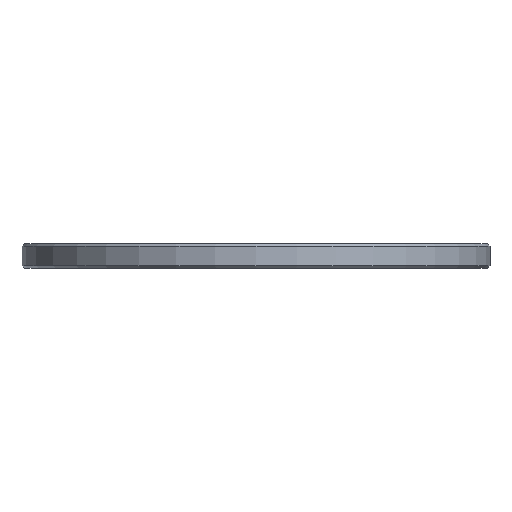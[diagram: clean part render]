
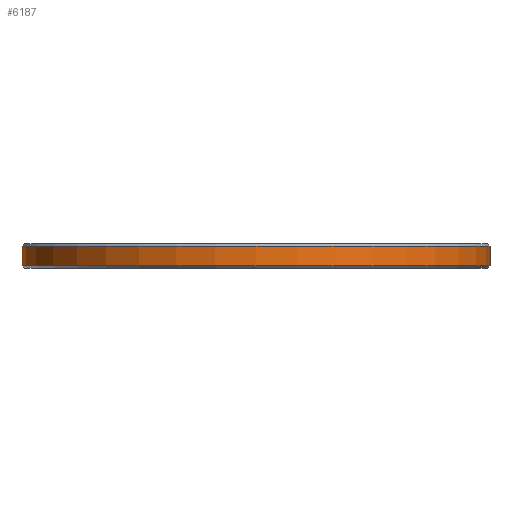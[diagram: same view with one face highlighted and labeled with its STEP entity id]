
A CAD part, front view. The second image highlights one B-rep face of the part: STEP entity #6187.
In plain terms, the highlighted cylindrical face has radius 29.688 mm (diameter 59.375 mm), a full revolution.
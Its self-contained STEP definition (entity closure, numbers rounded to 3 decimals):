
#62=CYLINDRICAL_SURFACE('',#6571,29.688);
#642=FACE_OUTER_BOUND('',#993,.T.);
#993=EDGE_LOOP('',(#5767,#5768,#5769,#5770));
#1064=CIRCLE('',#6570,29.688);
#1065=CIRCLE('',#6572,29.688);
#1860=LINE('',#9856,#2663);
#2663=VECTOR('',#8089,29.688);
#3230=VERTEX_POINT('',#9850);
#3231=VERTEX_POINT('',#9854);
#4077=EDGE_CURVE('',#3230,#3230,#1064,.T.);
#4079=EDGE_CURVE('',#3231,#3231,#1065,.T.);
#4080=EDGE_CURVE('',#3231,#3230,#1860,.T.);
#5767=ORIENTED_EDGE('',*,*,#4079,.F.);
#5768=ORIENTED_EDGE('',*,*,#4080,.T.);
#5769=ORIENTED_EDGE('',*,*,#4077,.F.);
#5770=ORIENTED_EDGE('',*,*,#4080,.F.);
#6187=ADVANCED_FACE('',(#642),#62,.T.);
#6570=AXIS2_PLACEMENT_3D('',#9851,#8082,#8083);
#6571=AXIS2_PLACEMENT_3D('',#9853,#8085,#8086);
#6572=AXIS2_PLACEMENT_3D('',#9855,#8087,#8088);
#8082=DIRECTION('center_axis',(0.,0.,-1.));
#8083=DIRECTION('ref_axis',(1.,0.,0.));
#8085=DIRECTION('center_axis',(0.,0.,1.));
#8086=DIRECTION('ref_axis',(1.,0.,0.));
#8087=DIRECTION('center_axis',(0.,0.,1.));
#8088=DIRECTION('ref_axis',(1.,0.,0.));
#8089=DIRECTION('',(0.,0.,-1.));
#9850=CARTESIAN_POINT('',(-29.688,0.,0.3));
#9851=CARTESIAN_POINT('Origin',(0.,0.,0.3));
#9853=CARTESIAN_POINT('Origin',(0.,0.,0.));
#9854=CARTESIAN_POINT('',(-29.688,0.,2.825));
#9855=CARTESIAN_POINT('Origin',(0.,0.,2.825));
#9856=CARTESIAN_POINT('',(-29.688,0.,0.));
